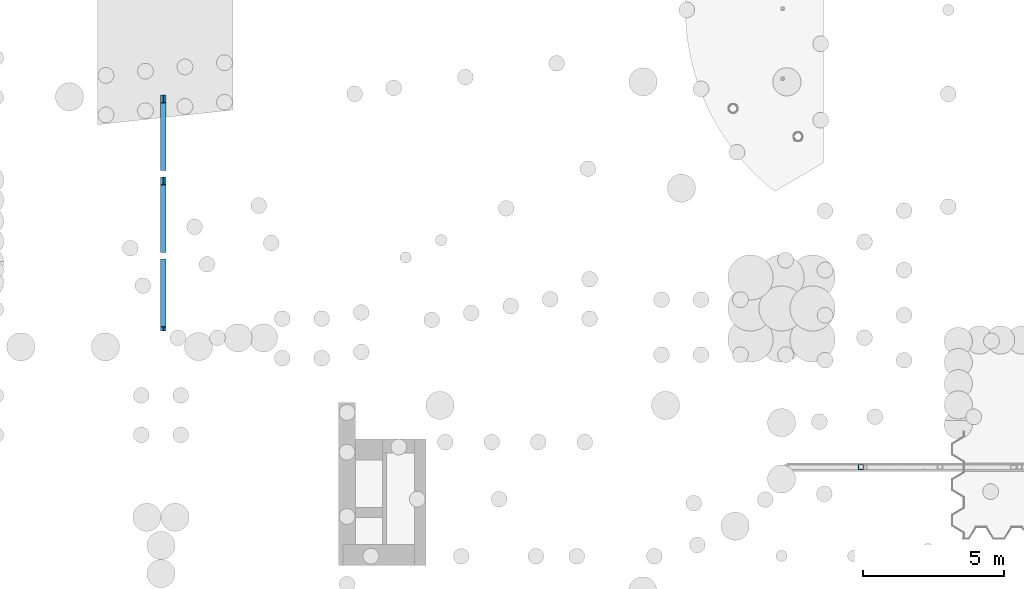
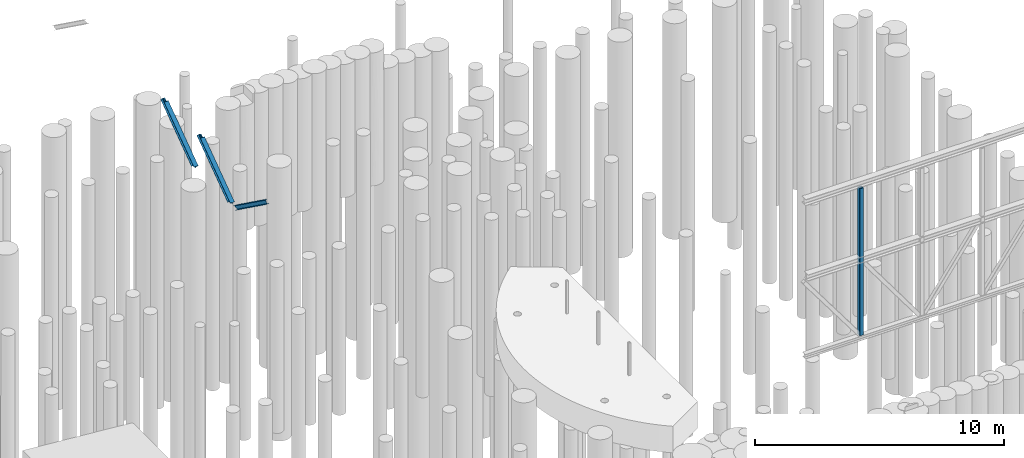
# One storey, part 11 of 104: 4 beams.
"""IFC2X3 building model written with IfcOpenShell, lengths in millimetres."""

from ifc_helpers import new_model, entity, si_unit, converted_unit, derived_unit, direction, frame, frame_2d, origin, place, context, subcontext, project, spatial, polyline, circle_curve, parameter, trimmed, segment, composite_curve, i_section, outline, extrude, clip, halfspace, material, type_object, element, save


model = new_model("IFC2X3")

# Units and contexts
model_context = context("Model", 3, precision=0.01, world=origin(), true_north=direction((6.12303176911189e-17, 1.0)))
body_context = subcontext(model_context, "Body", "Model", "MODEL_VIEW")
ifc_project = project(units=[si_unit("LENGTHUNIT", "METRE", prefix="MILLI"), si_unit("AREAUNIT", "SQUARE_METRE", prefix="MILLI"), si_unit("VOLUMEUNIT", "CUBIC_METRE"), converted_unit("PLANEANGLEUNIT", "DEGREE", entity("IfcRatioMeasure", 0.0174532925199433), si_unit("PLANEANGLEUNIT", "RADIAN"), dimensions=[0, 0, 0, 0, 0, 0, 0]), si_unit("MASSUNIT", "GRAM", prefix="KILO"), derived_unit("MASSDENSITYUNIT", [(si_unit("MASSUNIT", "GRAM", prefix="KILO"), 1), (si_unit("LENGTHUNIT", "METRE"), -3)]), derived_unit("MOMENTOFINERTIAUNIT", [(si_unit("LENGTHUNIT", "METRE"), 4)]), si_unit("TIMEUNIT", "SECOND"), si_unit("FREQUENCYUNIT", "HERTZ"), si_unit("THERMODYNAMICTEMPERATUREUNIT", "DEGREE_CELSIUS"), derived_unit("THERMALTRANSMITTANCEUNIT", [(si_unit("MASSUNIT", "GRAM", prefix="KILO"), 1), (si_unit("THERMODYNAMICTEMPERATUREUNIT", "KELVIN"), -1), (si_unit("TIMEUNIT", "SECOND"), -3)]), derived_unit("VOLUMETRICFLOWRATEUNIT", [(si_unit("LENGTHUNIT", "METRE"), 3), (si_unit("TIMEUNIT", "SECOND"), -1)]), si_unit("ELECTRICCURRENTUNIT", "AMPERE"), si_unit("ELECTRICVOLTAGEUNIT", "VOLT"), si_unit("POWERUNIT", "WATT"), si_unit("FORCEUNIT", "NEWTON", prefix="KILO"), si_unit("ILLUMINANCEUNIT", "LUX"), si_unit("LUMINOUSFLUXUNIT", "LUMEN"), si_unit("LUMINOUSINTENSITYUNIT", "CANDELA"), derived_unit("USERDEFINED", [(si_unit("MASSUNIT", "GRAM", prefix="KILO"), -1), (si_unit("LENGTHUNIT", "METRE"), -2), (si_unit("TIMEUNIT", "SECOND"), 3), (si_unit("LUMINOUSFLUXUNIT", "LUMEN"), 1)]), derived_unit("LINEARVELOCITYUNIT", [(si_unit("LENGTHUNIT", "METRE"), 1), (si_unit("TIMEUNIT", "SECOND"), -1)]), si_unit("PRESSUREUNIT", "PASCAL"), derived_unit("USERDEFINED", [(si_unit("LENGTHUNIT", "METRE"), -2), (si_unit("MASSUNIT", "GRAM", prefix="KILO"), 1), (si_unit("TIMEUNIT", "SECOND"), -2)]), derived_unit("LINEARFORCEUNIT", [(si_unit("MASSUNIT", "GRAM", prefix="KILO"), 1), (si_unit("LENGTHUNIT", "METRE"), 1), (si_unit("TIMEUNIT", "SECOND"), -2), (si_unit("LENGTHUNIT", "METRE"), -1)]), derived_unit("PLANARFORCEUNIT", [(si_unit("MASSUNIT", "GRAM", prefix="KILO"), 1), (si_unit("LENGTHUNIT", "METRE"), 1), (si_unit("TIMEUNIT", "SECOND"), -2), (si_unit("LENGTHUNIT", "METRE"), -2)])], contexts=[model_context])

# Site, building, storey
site_placement = place(None, origin())
site = spatial("IfcSite", under=ifc_project, at=site_placement, Name="Theater aan de Parade", CompositionType="ELEMENT")
building_placement = place(site_placement, origin())
building = spatial("IfcBuilding", under=site, at=building_placement, Name="Theater aan de Parade", CompositionType="ELEMENT")
storey_placement = place(building_placement, frame((0.0, 0.0, -5520.0)))
storey = spatial("IfcBuildingStorey", under=building, at=storey_placement, Name="-2 kelder", CompositionType="ELEMENT", Elevation=-5520.0)

# Beams
ifc_material = material(Name="00_PBT_MAT_staal_S355")
beam_type_1 = type_object("IfcBeamType", Name="28_PBT_SF_staal_koker:S355_K180x180x12.5", PredefinedType="NOTDEFINED")
beam_1_placement = place(storey_placement, frame((70344.7330970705, 16197.0, 10250.0), z_axis=(1.0, 0.0, 0.0), x_axis=(0.0, 0.0, 1.0)))
element("IfcBeam", 1, at=beam_1_placement, inside=storey, type_object=beam_type_1, material=ifc_material, Name="28_PBT_SF_staal_koker:S355_K180x180x12.5", ObjectType="28_PBT_SF_staal_koker:S355_K180x180x12.5", context=body_context, shape_type="SweptSolid", body=[
    extrude(outline(composite_curve([segment(polyline([(-71.2500000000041, -90.0), (71.2499999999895, -90.0)]), True, "CONTINUOUS"), segment(trimmed(circle_curve(frame_2d((71.2499999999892, -71.25), x_axis=(0.0, 1.0)), 18.75), [parameter(180.0)], [parameter(270.0)], True, "PARAMETER"), True, "CONTINUOUS"), segment(polyline([(90.0, -71.2499999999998), (90.0, 71.2500000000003)]), True, "CONTINUOUS"), segment(trimmed(circle_curve(frame_2d((71.2499999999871, 71.25), x_axis=(0.0, 1.0)), 18.75), [parameter(270.0)], [parameter(360.0)], True, "PARAMETER"), True, "CONTINUOUS"), segment(polyline([(71.2499999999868, 90.0), (-71.2500000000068, 90.0)]), True, "CONTINUOUS"), segment(trimmed(circle_curve(frame_2d((-71.2500000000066, 71.2499999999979), x_axis=(0.0, 1.0)), 18.75), [parameter(0.0)], [parameter(90.0000000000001)], True, "PARAMETER"), True, "CONTINUOUS"), segment(polyline([(-90.0, 71.2499999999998), (-90.0, -71.2500000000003)]), True, "CONTINUOUS"), segment(trimmed(circle_curve(frame_2d((-71.2500000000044, -71.2500000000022), x_axis=(0.0, 1.0)), 18.75), [parameter(90.0)], [parameter(180.0)], True, "PARAMETER"), True, "CONTINUOUS")], self_intersect=False), holes=[composite_curve([segment(polyline([(77.49999999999, 65.0), (77.499999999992, -65.0)]), True, "CONTINUOUS"), segment(trimmed(circle_curve(frame_2d((65.0, -65.0), x_axis=(0.0, 1.0)), 12.5), [parameter(180.0)], [parameter(270.0)], True, "PARAMETER"), False, "CONTINUOUS"), segment(polyline([(65.0, -77.4999999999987), (-65.0, -77.5000000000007)]), True, "CONTINUOUS"), segment(trimmed(circle_curve(frame_2d((-65.0, -65.0), x_axis=(0.0, 1.0)), 12.5), [parameter(90.0)], [parameter(180.0)], True, "PARAMETER"), False, "CONTINUOUS"), segment(polyline([(-77.5000000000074, -65.0), (-77.5000000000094, 65.0)]), True, "CONTINUOUS"), segment(trimmed(circle_curve(frame_2d((-65.0, 65.0), x_axis=(0.0, 1.0)), 12.5), [parameter(4.07110999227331e-13)], [parameter(90.0000000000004)], True, "PARAMETER"), False, "CONTINUOUS"), segment(polyline([(-65.0, 77.4999999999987), (65.0, 77.5000000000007)]), True, "CONTINUOUS"), segment(trimmed(circle_curve(frame_2d((65.0, 65.0), x_axis=(0.0, 1.0)), 12.5), [parameter(270.0)], [parameter(0.0)], True, "PARAMETER"), False, "CONTINUOUS")], self_intersect=False)]), frame((122.700000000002, 0.0, 0.0), z_axis=(1.0, 0.0, 0.0), x_axis=(0.0, 0.0, 1.0)), (0.0, 0.0, 1.0), 7207.3),
])
beam_type_2 = type_object("IfcBeamType", Name="28_PBT_SF_staal_H-profiel:S355_HE200B", PredefinedType="NOTDEFINED")
beam_2_placement = place(storey_placement, frame((45610.0, 20780.0, 22780.0), z_axis=(0.0, 0.585185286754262, 0.810899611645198), x_axis=(0.0, 0.810899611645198, -0.585185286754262)))
element("IfcBeam", 2, at=beam_2_placement, inside=storey, type_object=beam_type_2, material=ifc_material, Name="28_PBT_SF_staal_H-profiel:S355_HE200B", ObjectType="28_PBT_SF_staal_H-profiel:S355_HE200B", context=body_context, shape_type="Clipping", body=[
    clip(clip(clip(extrude(i_section(OverallWidth=199.999999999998, OverallDepth=199.999999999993, WebThickness=8.99999999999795, FlangeThickness=15.0000000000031, FilletRadius=17.9999999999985, at=frame_2d((8.81072992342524e-13, -4.33431068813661e-12), x_axis=(0.0, 1.0))), frame((366.766146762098, 0.0, 0.0), z_axis=(1.0, 0.0, 0.0), x_axis=(0.0, 0.0, -1.0)), (0.0, 0.0, 1.0), 3058.36513555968), halfspace(frame((3232.75560973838, -120.0, -108.816159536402), z_axis=(0.585185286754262, 0.0, -0.810899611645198), x_axis=(0.810899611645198, 0.0, 0.585185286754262)), False)), halfspace(frame((3441.10684065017, -120.0, 7.87408602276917), z_axis=(0.810899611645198, 0.0, 0.585185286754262), x_axis=(-0.585185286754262, 0.0, 0.810899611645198)), False)), halfspace(frame((93.5619315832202, 170.0, -142.124786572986), z_axis=(-0.585185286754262, 0.0, 0.810899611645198), x_axis=(0.810899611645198, 0.0, 0.585185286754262)), False)),
])
beam_type_3 = type_object("IfcBeamType", Name="28_PBT_SF_staal_H-profiel:S355_HE200A", PredefinedType="NOTDEFINED")
beam_3_placement = place(storey_placement, frame((45610.0, 23690.0, 20680.0), z_axis=(0.0, -0.585185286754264, 0.810899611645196), x_axis=(0.0, 0.810899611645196, 0.585185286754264)))
element("IfcBeam", 3, at=beam_3_placement, inside=storey, type_object=beam_type_3, material=ifc_material, Name="28_PBT_SF_staal_H-profiel:S355_HE200A", ObjectType="28_PBT_SF_staal_H-profiel:S355_HE200A", context=body_context, shape_type="Clipping", body=[
    clip(clip(clip(clip(extrude(outline(composite_curve([segment(polyline([(85.0, -100.0), (95.0, -100.0)]), True, "CONTINUOUS"), segment(polyline([(95.0, -100.0), (95.0, 100.0)]), True, "CONTINUOUS"), segment(polyline([(95.0, 100.0), (85.0, 100.0)]), True, "CONTINUOUS"), segment(polyline([(85.0, 100.0), (85.0, 21.2499999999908)]), True, "CONTINUOUS"), segment(trimmed(circle_curve(frame_2d((67.0, 21.2499999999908), x_axis=(1.0, 0.0)), 17.9999999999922), [parameter(269.999999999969)], [parameter(0.0)], True, "PARAMETER"), False, "CONTINUOUS"), segment(polyline([(67.0, 3.24999999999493), (-67.0, 3.24999999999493)]), True, "CONTINUOUS"), segment(trimmed(circle_curve(frame_2d((-67.0, 21.2499999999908), x_axis=(0.0, -1.0)), 17.9999999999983), [parameter(269.999999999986)], [parameter(0.0)], True, "PARAMETER"), False, "CONTINUOUS"), segment(polyline([(-85.0, 21.2499999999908), (-85.0, 100.0)]), True, "CONTINUOUS"), segment(polyline([(-85.0, 100.0), (-95.0, 100.0)]), True, "CONTINUOUS"), segment(polyline([(-95.0, 100.0), (-95.0, -100.0)]), True, "CONTINUOUS"), segment(polyline([(-95.0, -100.0), (-85.0, -100.0)]), True, "CONTINUOUS"), segment(polyline([(-85.0, -100.0), (-85.0, -21.2499999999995)]), True, "CONTINUOUS"), segment(trimmed(circle_curve(frame_2d((-67.0, -21.2500000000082), x_axis=(-1.0, 0.0)), 17.9999999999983), [parameter(269.999999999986)], [parameter(0.0)], True, "PARAMETER"), False, "CONTINUOUS"), segment(polyline([(-67.0, -3.25000000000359), (67.0, -3.25000000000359)]), True, "CONTINUOUS"), segment(trimmed(circle_curve(frame_2d((67.0, -21.2500000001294), x_axis=(0.0, 1.0)), 18.0000000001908), [parameter(270.000000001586)], [parameter(0.0)], True, "PARAMETER"), False, "CONTINUOUS"), segment(polyline([(85.0, -21.2500000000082), (85.0, -100.0)]), True, "CONTINUOUS")], self_intersect=False)), frame((163.475689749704, 0.0, 0.0), z_axis=(1.0, 0.0, 0.0), x_axis=(0.0, 0.0, -1.0)), (0.0, 0.0, 1.0), 3232.39632823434), halfspace(frame((-215.406893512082, -120.0, 303.432066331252), z_axis=(-0.585185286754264, 0.0, -0.810899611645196), x_axis=(0.810899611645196, 0.0, -0.585185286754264)), False)), halfspace(frame((147.500131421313, 120.0, 7.87408602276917), z_axis=(-0.810899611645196, 0.0, 0.585185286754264), x_axis=(0.585185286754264, 0.0, 0.810899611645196)), False)), halfspace(frame((2320.71109063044, -120.0, -1560.42248247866), z_axis=(0.810899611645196, 0.0, -0.585185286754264), x_axis=(0.585185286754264, 0.0, 0.810899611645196)), False)), halfspace(frame((-1236.22983361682, 170.0, 3272.19728752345), z_axis=(0.585185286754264, 0.0, 0.810899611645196), x_axis=(0.810899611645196, 0.0, -0.585185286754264)), False)),
])
beam_4_placement = place(storey_placement, frame((45610.0, 26600.0, 20680.0), z_axis=(0.0, -0.585185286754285, 0.810899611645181), x_axis=(0.0, 0.810899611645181, 0.585185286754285)))
element("IfcBeam", 4, at=beam_4_placement, inside=storey, type_object=beam_type_3, material=ifc_material, Name="28_PBT_SF_staal_H-profiel:S355_HE200A", ObjectType="28_PBT_SF_staal_H-profiel:S355_HE200A", context=body_context, shape_type="Clipping", body=[
    clip(clip(clip(clip(extrude(outline(composite_curve([segment(polyline([(85.0, -100.0), (95.0, -100.0)]), True, "CONTINUOUS"), segment(polyline([(95.0, -100.0), (95.0, 100.0)]), True, "CONTINUOUS"), segment(polyline([(95.0, 100.0), (85.0, 100.0)]), True, "CONTINUOUS"), segment(polyline([(85.0, 100.0), (85.0, 21.2499999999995)]), True, "CONTINUOUS"), segment(trimmed(circle_curve(frame_2d((67.0, 21.2499999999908), x_axis=(1.0, 0.0)), 17.9999999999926), [parameter(269.999999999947)], [parameter(0.0)], True, "PARAMETER"), False, "CONTINUOUS"), segment(polyline([(67.0, 3.25000000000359), (-67.0, 3.25000000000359)]), True, "CONTINUOUS"), segment(trimmed(circle_curve(frame_2d((-67.0, 21.2499999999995), x_axis=(0.0, -1.0)), 17.9999999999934), [parameter(269.999999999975)], [parameter(0.0)], True, "PARAMETER"), False, "CONTINUOUS"), segment(polyline([(-85.0, 21.2499999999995), (-85.0, 100.0)]), True, "CONTINUOUS"), segment(polyline([(-85.0, 100.0), (-95.0, 100.0)]), True, "CONTINUOUS"), segment(polyline([(-95.0, 100.0), (-95.0, -100.0)]), True, "CONTINUOUS"), segment(polyline([(-95.0, -100.0), (-85.0, -100.0)]), True, "CONTINUOUS"), segment(polyline([(-85.0, -100.0), (-85.0, -21.2499999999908)]), True, "CONTINUOUS"), segment(trimmed(circle_curve(frame_2d((-67.0, -21.2499999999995), x_axis=(-1.0, 0.0)), 17.9999999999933), [parameter(269.999999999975)], [parameter(0.0)], True, "PARAMETER"), False, "CONTINUOUS"), segment(polyline([(-67.0, -3.24999999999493), (67.0, -3.24999999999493)]), True, "CONTINUOUS"), segment(trimmed(circle_curve(frame_2d((67.0, -21.249999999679), x_axis=(0.0, 1.0)), 17.9999999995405), [parameter(269.999999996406)], [parameter(0.0)], True, "PARAMETER"), False, "CONTINUOUS"), segment(polyline([(85.0, -21.2499999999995), (85.0, -100.0)]), True, "CONTINUOUS")], self_intersect=False)), frame((163.47568974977, 0.0, 0.0), z_axis=(1.0, 0.0, 0.0), x_axis=(0.0, 0.0, -1.0)), (0.0, 0.0, 1.0), 3232.39632823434), halfspace(frame((-2575.12476339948, -120.0, 2006.32125078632), z_axis=(-0.585185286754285, 0.0, -0.810899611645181), x_axis=(0.810899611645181, 0.0, -0.585185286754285)), False)), halfspace(frame((147.500131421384, 120.0, 7.8740860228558), z_axis=(-0.810899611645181, 0.0, 0.585185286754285), x_axis=(0.585185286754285, 0.0, 0.810899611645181)), False)), halfspace(frame((2320.71109063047, -120.0, -1560.42248247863), z_axis=(0.810899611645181, 0.0, -0.585185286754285), x_axis=(0.585185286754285, 0.0, 0.810899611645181)), False)), halfspace(frame((-3595.94770350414, 170.0, 4975.08647197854), z_axis=(0.585185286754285, 0.0, 0.810899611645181), x_axis=(0.810899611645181, 0.0, -0.585185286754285)), False)),
])

save(model, "model.ifc")
